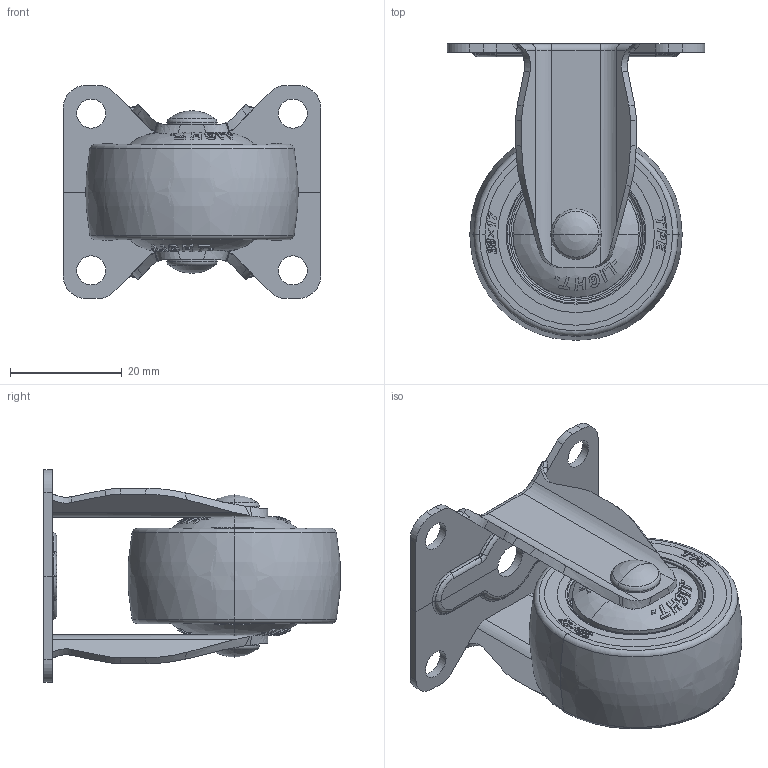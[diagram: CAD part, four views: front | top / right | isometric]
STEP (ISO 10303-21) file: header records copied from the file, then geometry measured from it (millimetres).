
FILE_DESCRIPTION((''),'2;1');
FILE_NAME('815-GD_ASM','2021-12-17T',('Lenovo'),(''),'PRO/ENGINEER BY PARAMETRIC TECHNOLOGY CORPORATION, 2010280','PRO/ENGINEER BY PARAMETRIC TECHNOLOGY CORPORATION, 2010280','');
FILE_SCHEMA(('CONFIG_CONTROL_DESIGN'));
Length unit declared in the file: millimetre
Products named in the file (8): 815-GDZJ; 815-LZMD; 20-38-X_; 02-40_; 608_; 08-38-F_; 08-1-38__ASM; 815-GD_ASM
Assembly tree (8 placements, depth 3):
  815-GD_ASM
    815-GDZJ
    815-LZMD
    08-1-38__ASM
      20-38-X_
      02-40_
      608_
      08-38-F_  x2
Bounding box: 46 x 52.92 x 38 mm (x, y, z)
Volume: 20067.2 mm3; surface area: 38106.6 mm2
Topology: 15 solids, 21 shells, 1099 faces, 2871 edges, 1836 vertices
Faces by surface type: plane 495, extrusion 170, bspline 166, cylinder 142, torus 58, cone 44, sphere 24
Entity records: 36927 total; most frequent: CARTESIAN_POINT 14882, ORIENTED_EDGE 4910, DIRECTION 3839, EDGE_CURVE 2463, VERTEX_POINT 1588, AXIS2_PLACEMENT_3D 1286, VECTOR 1267, LINE 1121
